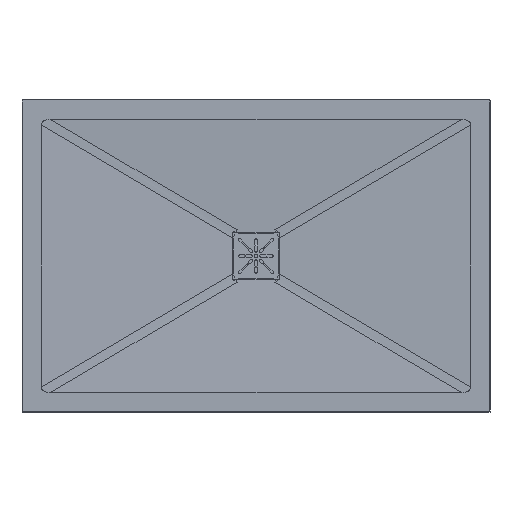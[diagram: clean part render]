
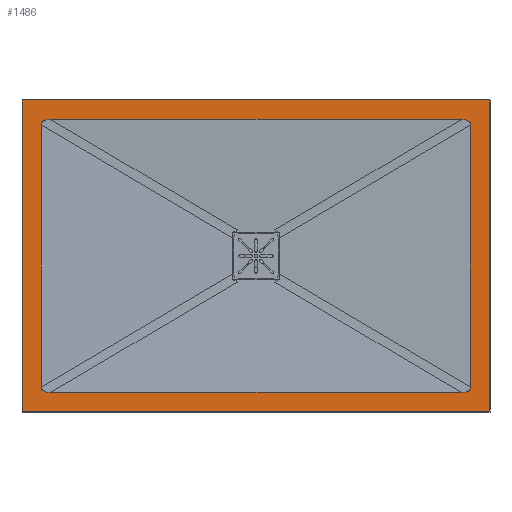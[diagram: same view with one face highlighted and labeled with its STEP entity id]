
A CAD part, top view. The second image highlights one B-rep face of the part: STEP entity #1486.
In plain terms, the highlighted planar face has unit normal (0, 0, 1).
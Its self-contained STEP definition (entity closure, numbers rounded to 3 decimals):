
#3 = DIRECTION ( 'NONE',  ( 0., 0., 1. ) ) ;
#75 = EDGE_CURVE ( 'NONE', #3953, #3547, #1596, .T. ) ;
#94 = DIRECTION ( 'NONE',  ( 0., 1., 0. ) ) ;
#137 = EDGE_CURVE ( 'NONE', #3547, #3837, #3460, .T. ) ;
#151 = CARTESIAN_POINT ( 'NONE',  ( -450.297, 785.257, 297.307 ) ) ;
#169 = CARTESIAN_POINT ( 'NONE',  ( -1518.875, 785.257, 297.307 ) ) ;
#194 = CARTESIAN_POINT ( 'NONE',  ( -392.44, 85.257, 297.307 ) ) ;
#197 = CARTESIAN_POINT ( 'NONE',  ( -392.44, 35.257, 297.307 ) ) ;
#201 = VECTOR ( 'NONE', #3016, 1000. ) ;
#281 = LINE ( 'NONE', #1642, #201 ) ;
#305 = ORIENTED_EDGE ( 'NONE', *, *, #3575, .T. ) ;
#322 = VECTOR ( 'NONE', #1136, 1000. ) ;
#339 = CARTESIAN_POINT ( 'NONE',  ( -1542.44, 771.298, 297.307 ) ) ;
#353 = CARTESIAN_POINT ( 'NONE',  ( -466.005, 785.257, 297.307 ) ) ;
#367 = CARTESIAN_POINT ( 'NONE',  ( -1518.875, 85.257, 297.307 ) ) ;
#377 = LINE ( 'NONE', #2074, #3994 ) ;
#505 = LINE ( 'NONE', #194, #3783 ) ;
#557 = ORIENTED_EDGE ( 'NONE', *, *, #910, .T. ) ;
#576 = EDGE_CURVE ( 'NONE', #1617, #4412, #718, .T. ) ;
#583 = DIRECTION ( 'NONE',  ( 1., 0., 0. ) ) ;
#680 =( BOUNDED_CURVE ( )  B_SPLINE_CURVE ( 3, ( #3276, #875, #4305, #1859 ),
 .UNSPECIFIED., .F., .T. ) 
 B_SPLINE_CURVE_WITH_KNOTS ( ( 4, 4 ),
 ( 6.239, 6.299 ),
 .UNSPECIFIED. ) 
 CURVE ( )  GEOMETRIC_REPRESENTATION_ITEM ( )  RATIONAL_B_SPLINE_CURVE ( ( 1., 1., 1., 1. ) ) 
 REPRESENTATION_ITEM ( '' )  );
#712 = VERTEX_POINT ( 'NONE', #3976 ) ;
#718 =( BOUNDED_CURVE ( )  B_SPLINE_CURVE ( 3, ( #2135, #4111, #1438, #2830 ),
 .UNSPECIFIED., .F., .T. ) 
 B_SPLINE_CURVE_WITH_KNOTS ( ( 4, 4 ),
 ( 3.126, 3.186 ),
 .UNSPECIFIED. ) 
 CURVE ( )  GEOMETRIC_REPRESENTATION_ITEM ( )  RATIONAL_B_SPLINE_CURVE ( ( 1., 1., 1., 1. ) ) 
 REPRESENTATION_ITEM ( '' )  );
#781 = ORIENTED_EDGE ( 'NONE', *, *, #2359, .T. ) ;
#792 = EDGE_CURVE ( 'NONE', #4401, #712, #680, .T. ) ;
#875 = CARTESIAN_POINT ( 'NONE',  ( -1534.582, 85.257, 297.307 ) ) ;
#895 = VERTEX_POINT ( 'NONE', #2639 ) ;
#910 = EDGE_CURVE ( 'NONE', #3488, #2799, #377, .T. ) ;
#1008 = CARTESIAN_POINT ( 'NONE',  ( -1534.582, 785.257, 297.307 ) ) ;
#1136 = DIRECTION ( 'NONE',  ( 1., 0., 0. ) ) ;
#1209 = CARTESIAN_POINT ( 'NONE',  ( -466.005, 785.257, 297.307 ) ) ;
#1224 = EDGE_LOOP ( 'NONE', ( #1424, #781, #557, #305 ) ) ;
#1242 = DIRECTION ( 'NONE',  ( -1., 0., 0. ) ) ;
#1424 = ORIENTED_EDGE ( 'NONE', *, *, #3028, .T. ) ;
#1438 = CARTESIAN_POINT ( 'NONE',  ( -450.297, 85.257, 297.307 ) ) ;
#1486 = ADVANCED_FACE ( 'NONE', ( #3747, #3018 ), #1998, .T. ) ;
#1494 = ORIENTED_EDGE ( 'NONE', *, *, #137, .T. ) ;
#1596 =( BOUNDED_CURVE ( )  B_SPLINE_CURVE ( 3, ( #2001, #4053, #1008, #2357 ),
 .UNSPECIFIED., .F., .T. ) 
 B_SPLINE_CURVE_WITH_KNOTS ( ( 4, 4 ),
 ( 6.268, 6.328 ),
 .UNSPECIFIED. ) 
 CURVE ( )  GEOMETRIC_REPRESENTATION_ITEM ( )  RATIONAL_B_SPLINE_CURVE ( ( 1., 1., 1., 1. ) ) 
 REPRESENTATION_ITEM ( '' )  );
#1617 = VERTEX_POINT ( 'NONE', #2765 ) ;
#1642 = CARTESIAN_POINT ( 'NONE',  ( -442.44, 435.257, 297.307 ) ) ;
#1687 = DIRECTION ( 'NONE',  ( -1., 0., 0. ) ) ;
#1786 = CARTESIAN_POINT ( 'NONE',  ( -392.44, 435.257, 297.307 ) ) ;
#1827 = VECTOR ( 'NONE', #94, 1000. ) ;
#1844 = CARTESIAN_POINT ( 'NONE',  ( -442.44, 780.602, 297.307 ) ) ;
#1859 = CARTESIAN_POINT ( 'NONE',  ( -1542.44, 99.216, 297.307 ) ) ;
#1986 = ORIENTED_EDGE ( 'NONE', *, *, #792, .T. ) ;
#1998 = PLANE ( 'NONE',  #3273 ) ;
#2001 = CARTESIAN_POINT ( 'NONE',  ( -1542.44, 771.298, 297.307 ) ) ;
#2070 = DIRECTION ( 'NONE',  ( 0., -1., 0. ) ) ;
#2074 = CARTESIAN_POINT ( 'NONE',  ( -992.44, 835.257, 297.307 ) ) ;
#2135 = CARTESIAN_POINT ( 'NONE',  ( -442.44, 99.216, 297.307 ) ) ;
#2160 = CARTESIAN_POINT ( 'NONE',  ( -992.44, 35.257, 297.307 ) ) ;
#2284 = CARTESIAN_POINT ( 'NONE',  ( -1592.44, 435.257, 297.307 ) ) ;
#2357 = CARTESIAN_POINT ( 'NONE',  ( -1518.875, 785.257, 297.307 ) ) ;
#2359 = EDGE_CURVE ( 'NONE', #2429, #3488, #4148, .T. ) ;
#2429 = VERTEX_POINT ( 'NONE', #197 ) ;
#2541 = CARTESIAN_POINT ( 'NONE',  ( -442.44, 771.298, 297.307 ) ) ;
#2572 = CARTESIAN_POINT ( 'NONE',  ( -392.44, 835.257, 297.307 ) ) ;
#2639 = CARTESIAN_POINT ( 'NONE',  ( -1592.44, 35.257, 297.307 ) ) ;
#2733 = ORIENTED_EDGE ( 'NONE', *, *, #3116, .T. ) ;
#2765 = CARTESIAN_POINT ( 'NONE',  ( -442.44, 99.216, 297.307 ) ) ;
#2799 = VERTEX_POINT ( 'NONE', #3067 ) ;
#2830 = CARTESIAN_POINT ( 'NONE',  ( -466.005, 85.257, 297.307 ) ) ;
#2896 = DIRECTION ( 'NONE',  ( 0., -1., 0. ) ) ;
#2910 = VECTOR ( 'NONE', #3513, 1000. ) ;
#2954 = ORIENTED_EDGE ( 'NONE', *, *, #3653, .F. ) ;
#3016 = DIRECTION ( 'NONE',  ( 0., 1., 0. ) ) ;
#3018 = FACE_OUTER_BOUND ( 'NONE', #1224, .T. ) ;
#3019 = ORIENTED_EDGE ( 'NONE', *, *, #75, .T. ) ;
#3028 = EDGE_CURVE ( 'NONE', #895, #2429, #3634, .T. ) ;
#3067 = CARTESIAN_POINT ( 'NONE',  ( -1592.44, 835.257, 297.307 ) ) ;
#3116 = EDGE_CURVE ( 'NONE', #712, #3953, #4214, .T. ) ;
#3273 = AXIS2_PLACEMENT_3D ( 'NONE', #3371, #3, #2070 ) ;
#3276 = CARTESIAN_POINT ( 'NONE',  ( -1518.875, 85.257, 297.307 ) ) ;
#3351 = EDGE_CURVE ( 'NONE', #3837, #3885, #4210, .T. ) ;
#3359 = EDGE_LOOP ( 'NONE', ( #1986, #2733, #3019, #1494, #3952, #2954, #4145, #3910 ) ) ;
#3371 = CARTESIAN_POINT ( 'NONE',  ( -392.44, 835.257, 297.307 ) ) ;
#3460 = LINE ( 'NONE', #4205, #322 ) ;
#3480 = CARTESIAN_POINT ( 'NONE',  ( -442.44, 771.298, 297.307 ) ) ;
#3488 = VERTEX_POINT ( 'NONE', #2572 ) ;
#3513 = DIRECTION ( 'NONE',  ( 0., 1., 0. ) ) ;
#3547 = VERTEX_POINT ( 'NONE', #169 ) ;
#3575 = EDGE_CURVE ( 'NONE', #2799, #895, #3639, .T. ) ;
#3634 = LINE ( 'NONE', #2160, #4269 ) ;
#3639 = LINE ( 'NONE', #2284, #4138 ) ;
#3653 = EDGE_CURVE ( 'NONE', #1617, #3885, #281, .T. ) ;
#3747 = FACE_BOUND ( 'NONE', #3359, .T. ) ;
#3761 = CARTESIAN_POINT ( 'NONE',  ( -1542.44, 835.257, 297.307 ) ) ;
#3783 = VECTOR ( 'NONE', #1242, 1000. ) ;
#3837 = VERTEX_POINT ( 'NONE', #1209 ) ;
#3885 = VERTEX_POINT ( 'NONE', #2541 ) ;
#3910 = ORIENTED_EDGE ( 'NONE', *, *, #4075, .T. ) ;
#3952 = ORIENTED_EDGE ( 'NONE', *, *, #3351, .T. ) ;
#3953 = VERTEX_POINT ( 'NONE', #339 ) ;
#3976 = CARTESIAN_POINT ( 'NONE',  ( -1542.44, 99.216, 297.307 ) ) ;
#3994 = VECTOR ( 'NONE', #1687, 1000. ) ;
#4053 = CARTESIAN_POINT ( 'NONE',  ( -1542.44, 780.602, 297.307 ) ) ;
#4075 = EDGE_CURVE ( 'NONE', #4412, #4401, #505, .T. ) ;
#4111 = CARTESIAN_POINT ( 'NONE',  ( -442.44, 89.911, 297.307 ) ) ;
#4138 = VECTOR ( 'NONE', #2896, 1000. ) ;
#4145 = ORIENTED_EDGE ( 'NONE', *, *, #576, .T. ) ;
#4148 = LINE ( 'NONE', #1786, #1827 ) ;
#4205 = CARTESIAN_POINT ( 'NONE',  ( -392.44, 785.257, 297.307 ) ) ;
#4210 =( BOUNDED_CURVE ( )  B_SPLINE_CURVE ( 3, ( #353, #151, #1844, #3480 ),
 .UNSPECIFIED., .F., .F. ) 
 B_SPLINE_CURVE_WITH_KNOTS ( ( 4, 4 ),
 ( 3.097, 3.157 ),
 .UNSPECIFIED. ) 
 CURVE ( )  GEOMETRIC_REPRESENTATION_ITEM ( )  RATIONAL_B_SPLINE_CURVE ( ( 1., 1., 1., 1. ) ) 
 REPRESENTATION_ITEM ( '' )  );
#4214 = LINE ( 'NONE', #3761, #2910 ) ;
#4269 = VECTOR ( 'NONE', #583, 1000. ) ;
#4305 = CARTESIAN_POINT ( 'NONE',  ( -1542.44, 89.911, 297.307 ) ) ;
#4379 = CARTESIAN_POINT ( 'NONE',  ( -466.005, 85.257, 297.307 ) ) ;
#4401 = VERTEX_POINT ( 'NONE', #367 ) ;
#4412 = VERTEX_POINT ( 'NONE', #4379 ) ;
